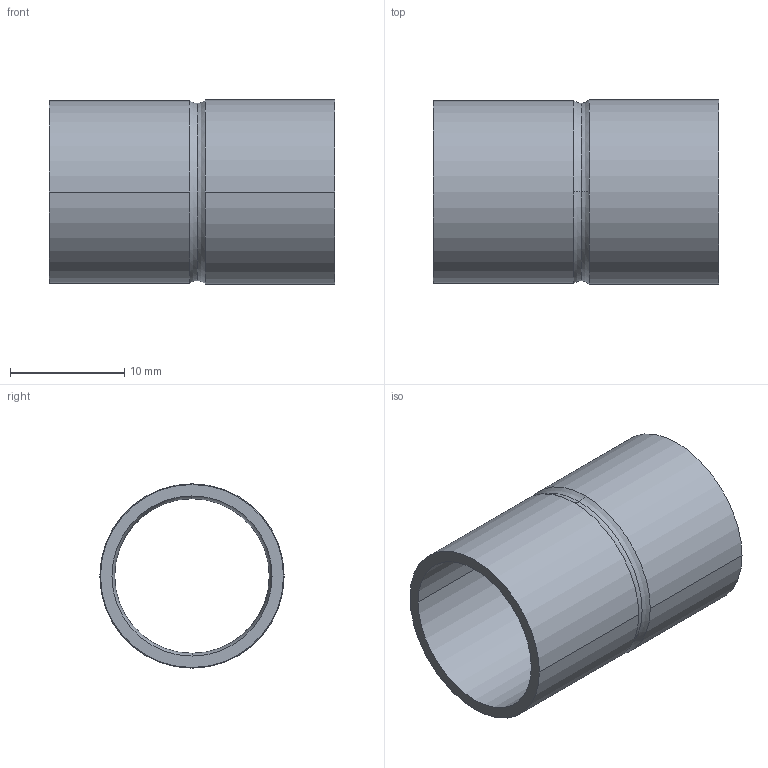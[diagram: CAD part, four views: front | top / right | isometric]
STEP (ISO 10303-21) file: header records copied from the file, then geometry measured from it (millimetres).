
FILE_DESCRIPTION((''),'2;1');
FILE_NAME('G:\Technics\CAD\Bauteile\Serie 15243\152431614.stp','2005-10-21T12:49:33',('boden'),(''),'Autodesk Inventor 8','Autodesk Inventor 8','');
FILE_SCHEMA(('AUTOMOTIVE_DESIGN { 1 0 10303 214 1 1 1 1 }'));
Length unit declared in the file: millimetre
Products named in the file (1): 152431614
Bounding box: 25 x 16.11 x 16.11 mm (x, y, z)
Volume: 1185.6 mm3; surface area: 2466.4 mm2
Topology: 1 solids, 1 shells, 18 faces, 44 edges, 28 vertices
Faces by surface type: cylinder 8, torus 4, bspline 4, plane 2
Entity records: 739 total; most frequent: CARTESIAN_POINT 267, DIRECTION 110, ORIENTED_EDGE 88, AXIS2_PLACEMENT_3D 51, EDGE_CURVE 44, CIRCLE 36, VERTEX_POINT 28, EDGE_LOOP 20
